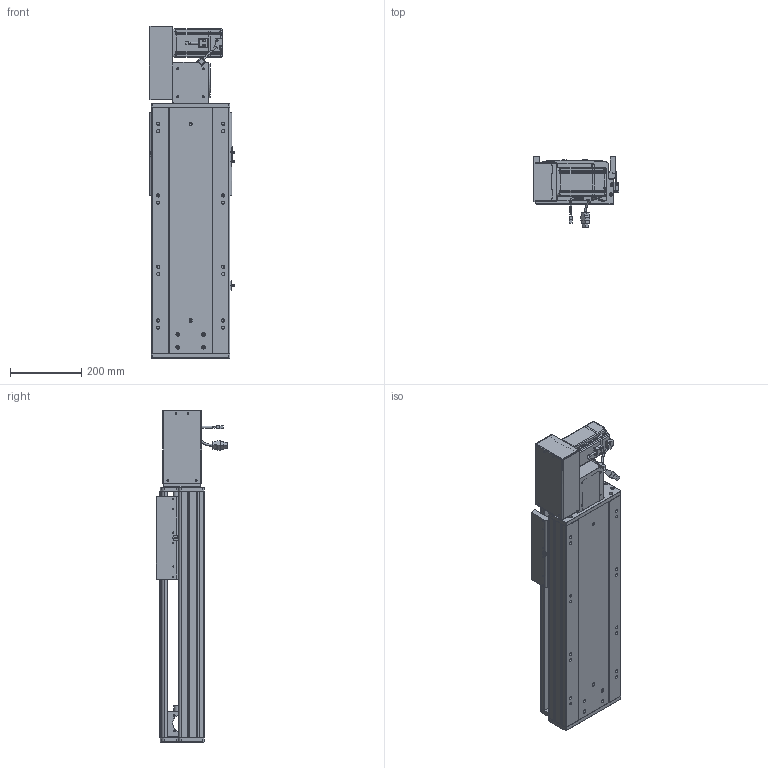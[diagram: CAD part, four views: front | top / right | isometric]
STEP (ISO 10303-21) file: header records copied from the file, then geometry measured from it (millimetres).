
FILE_DESCRIPTION (( 'STEP AP203' ), '1' );
FILE_NAME ('RY220-T-300-LK.SLDASM_350.step', '2022-07-25T08:13:03', ( '' ), ( '' ), 'SwSTEP 2.0', 'SolidWorks 2016', '' );
FILE_SCHEMA (( 'CONFIG_CONTROL_DESIGN' ));
Length unit declared in the file: millimetre
Products named in the file (14): 110A-T-肮祭謫釱傷裔; RY220-T-蛌殏萇儂假蚾啣(750W); RY220-T-湍謫欶(鍼踢); RY220-T菁釱-300_350; RY220-T-300-LK.SLDASM_350; RY220翋肮祭謫裔啣; 覜茼ん672; 怢湛750W_ECMA-CX0807ES; RY220-T-300-奻裔啣_350; RY220-同步轮副支撑座6304×2; RY220翋肮祭謫釱; 滅袉蝶18-15; RY220-俋离672覜茼んえ; RY220圉猾敕々湍臏賑輸
Assembly tree (18 placements, depth 2):
  RY220-T-300-LK.SLDASM_350
    RY220-T菁釱-300_350
    RY220翋肮祭謫釱
    覜茼ん672  x3
    RY220圉猾敕々湍臏賑輸
    RY220-T-300-奻裔啣_350
    RY220-俋离672覜茼んえ
    滅袉蝶18-15  x3
    RY220翋肮祭謫裔啣  x2
    110A-T-肮祭謫釱傷裔
    怢湛750W_ECMA-CX0807ES
    RY220-T-湍謫欶(鍼踢)
    RY220-T-蛌殏萇儂假蚾啣(750W)
    RY220-同步轮副支撑座6304×2
Bounding box: 239.7 x 198.77 x 929 mm (x, y, z)
Volume: 8053956.2 mm3; surface area: 2209173.5 mm2
Topology: 19 solids, 19 shells, 2494 faces, 6871 edges, 4384 vertices
Faces by surface type: cylinder 1138, plane 1069, cone 205, bspline 56, sphere 16, torus 10
Entity records: 82835 total; most frequent: CARTESIAN_POINT 23741, ORIENTED_EDGE 12314, DIRECTION 11520, EDGE_CURVE 6157, AXIS2_PLACEMENT_3D 4032, VERTEX_POINT 4008, LINE 3456, VECTOR 3456
